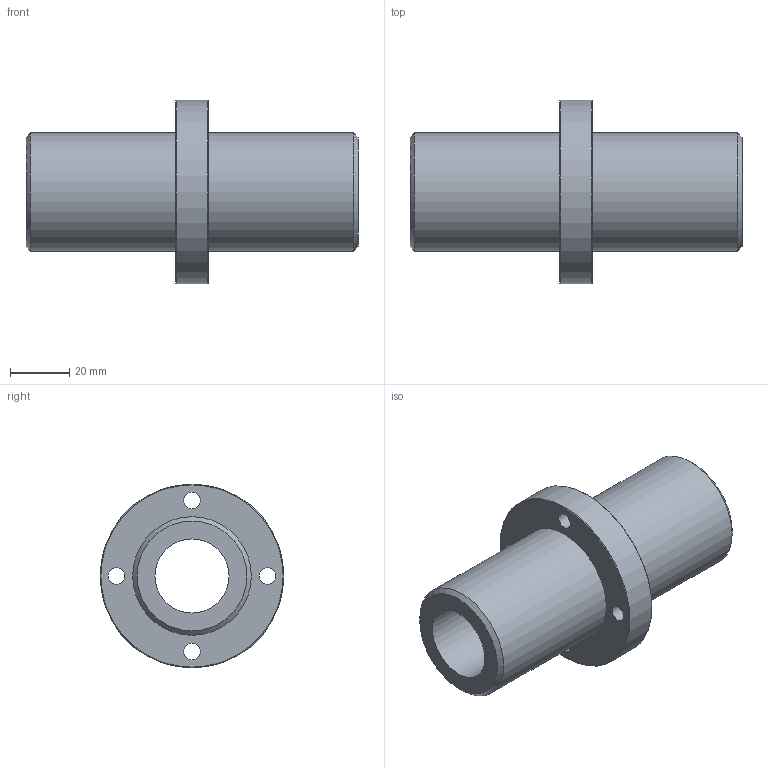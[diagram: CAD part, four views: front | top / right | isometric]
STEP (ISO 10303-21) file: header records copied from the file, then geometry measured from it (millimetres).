
FILE_DESCRIPTION(('STEP AP203'),'1');
FILE_NAME('//192.168.1.1/share/s-4 技術開発/s-4-4_CAD/s-4-4-3_見直し済み/PBC LINEAR修正済み/CFPJ/CFPJ_TOP/CFPJR/CFPJR25.step','2022-03-24T04:16:17',(' '),(' '),'Spatial InterOp 3D',' ',' ');
FILE_SCHEMA(('CONFIG_CONTROL_DESIGN'));
Length unit declared in the file: millimetre
Products named in the file (1): 1
Bounding box: 112 x 62 x 62 mm (x, y, z)
Volume: 103005.6 mm3; surface area: 29197.1 mm2
Topology: 1 solids, 1 shells, 24 faces, 50 edges, 34 vertices
Faces by surface type: cylinder 12, plane 8, cone 4
Full cylindrical faces by diameter (mm): 5.5 x4, 9 x4, 25 x1, 40 x2, 62 x1
Entity records: 588 total; most frequent: DIRECTION 106, CARTESIAN_POINT 81, EDGE_LOOP 56, ORIENTED_EDGE 56, AXIS2_PLACEMENT_3D 53, FACE_OUTER_BOUND 36, EDGE_CURVE 28, VERTEX_POINT 28
